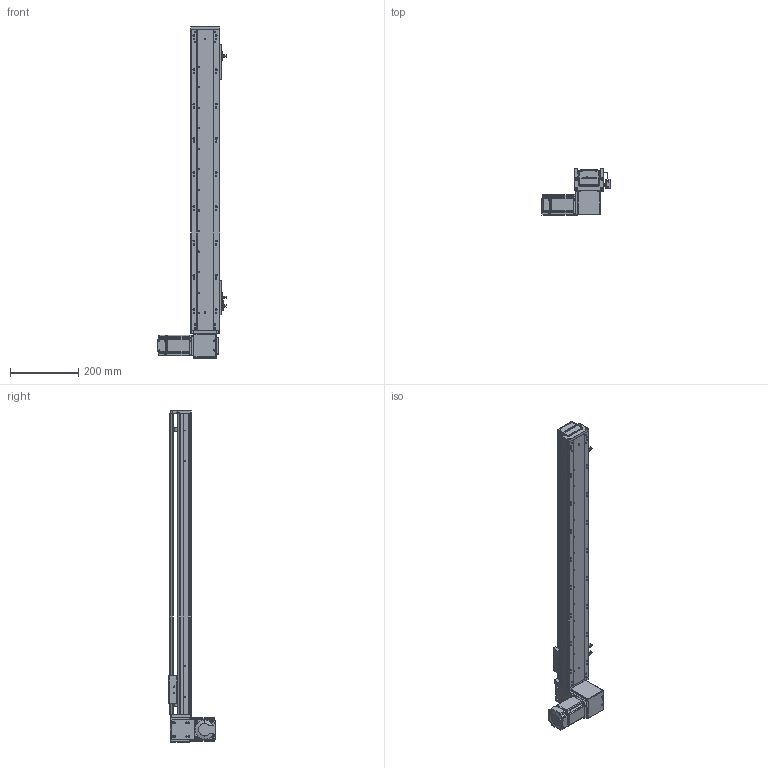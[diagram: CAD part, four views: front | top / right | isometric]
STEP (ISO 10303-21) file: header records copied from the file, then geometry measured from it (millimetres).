
FILE_DESCRIPTION (( 'STEP AP203' ), '1' );
FILE_NAME ('RY80-T-300-DL.SLDASM_700.step', '2021-03-01T01:38:07', ( '盈信电脑' ), ( '东莞市道滘镇水果街19号' ), 'SwSTEP 2.0', 'SolidWorks 2012', '' );
FILE_SCHEMA (( 'CONFIG_CONTROL_DESIGN' ));
Length unit declared in the file: millimetre
Products named in the file (19): RY80-T-300-DL.SLDASM_700; RY80-T-M4蹟翐3; RY80-T肮祭謫狟殏俋欶; RY100-T粣創揤踡裔; RY80-T-上下折同步轮盖板; 1; RY80-T翋肮祭謫裔啣; 滅袉蝶18-10; RY80-T-翋肮祭謫釱; RY80-T肮祭湍揤輸2; RY80-T萇儂假蚾啣; RY80-T肮祭湍揤輸1; RY80俋离覜茼え; 672嫖萇羲壽假蚾釱; 覜茼ん672; RY80-T綴裔啣; RY80-T肮祭謫臏賑輸; RY80-T-300-DL倰第菁釱_700; RY80-T-300-DL倰第奻裔啣_700
Assembly tree (24 placements, depth 2):
  RY80-T-300-DL.SLDASM_700
    RY80-T-300-DL倰第菁釱_700
    RY80-T肮祭謫臏賑輸
    RY80-T-300-DL倰第奻裔啣_700
    RY80-T綴裔啣
    672嫖萇羲壽假蚾釱  x2
    覜茼ん672  x3
    RY80俋离覜茼え
    RY80-T-翋肮祭謫釱
    RY80-T肮祭湍揤輸1
    RY80-T肮祭湍揤輸2
    RY80-T萇儂假蚾啣
    RY80-T翋肮祭謫裔啣  x2
    滅袉蝶18-10  x2
    1
    RY80-T肮祭謫狟殏俋欶
    RY80-T-M4蹟翐3  x2
    RY80-T-上下折同步轮盖板
    RY100-T粣創揤踡裔
Bounding box: 198.7 x 134.5 x 970 mm (x, y, z)
Volume: 1794121.5 mm3; surface area: 749851.5 mm2
Topology: 24 solids, 24 shells, 2557 faces, 7063 edges, 4587 vertices
Faces by surface type: plane 1359, cylinder 992, cone 150, bspline 56
Entity records: 81033 total; most frequent: CARTESIAN_POINT 20102, ORIENTED_EDGE 12570, DIRECTION 11722, EDGE_CURVE 6285, VERTEX_POINT 4128, AXIS2_PLACEMENT_3D 3952, LINE 3818, VECTOR 3818
